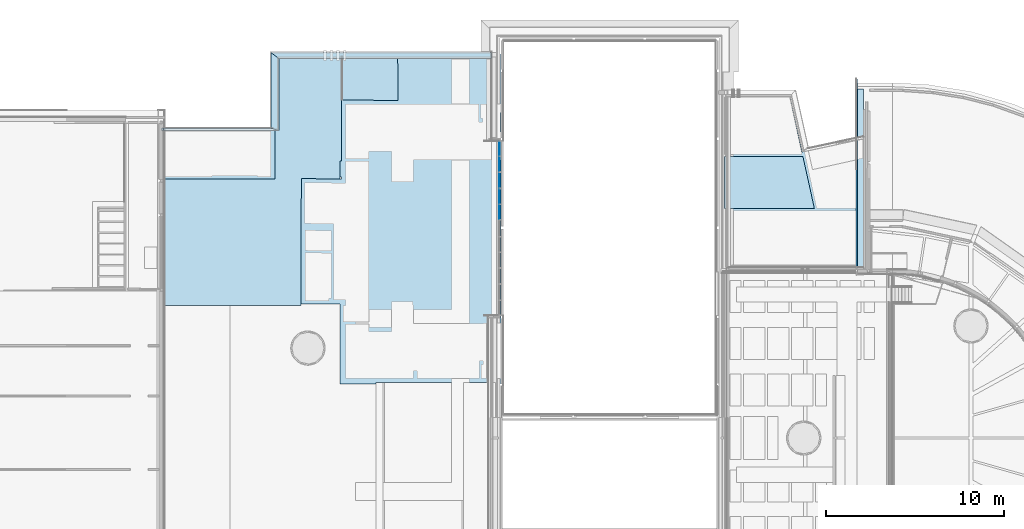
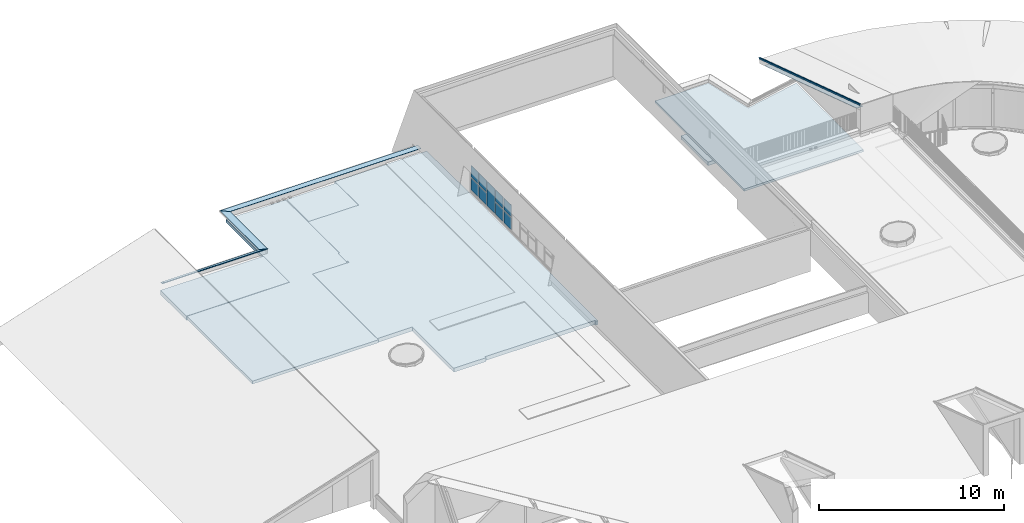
# One storey, part 15 of 66: 14 slabs, 9 plates, 5 elements without a shape of their own.
"""IFC2X3 building model written with IfcOpenShell, lengths in millimetres."""

from ifc_helpers import new_model, entity, si_unit, converted_unit, derived_unit, direction, frame, frame_2d, origin, origin_2d_with_axis, place, context, subcontext, project, spatial, polyline, circle_curve, parameter, trimmed, segment, composite_curve, rectangle, outline, extrude, source, transform, mapped, material, material_list, layer, layer_set, layer_usage, type_object, type_shapes, element, aggregate, save


model = new_model("IFC2X3")

# Units and contexts
model_context = context("Model", 3, precision=0.01, world=origin(), true_north=direction((6.12303176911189e-17, 1.0)))
body_context = subcontext(model_context, "Body", "Model", "MODEL_VIEW")
ifc_project = project(units=[si_unit("LENGTHUNIT", "METRE", prefix="MILLI"), si_unit("AREAUNIT", "SQUARE_METRE"), si_unit("VOLUMEUNIT", "CUBIC_METRE"), converted_unit("PLANEANGLEUNIT", "DEGREE", entity("IfcRatioMeasure", 0.0174532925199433), si_unit("PLANEANGLEUNIT", "RADIAN"), dimensions=[0, 0, 0, 0, 0, 0, 0]), si_unit("MASSUNIT", "GRAM", prefix="KILO"), derived_unit("MASSDENSITYUNIT", [(si_unit("MASSUNIT", "GRAM", prefix="KILO"), 1), (si_unit("LENGTHUNIT", "METRE"), -3)]), derived_unit("MOMENTOFINERTIAUNIT", [(si_unit("LENGTHUNIT", "METRE"), 4)]), si_unit("TIMEUNIT", "SECOND"), si_unit("FREQUENCYUNIT", "HERTZ"), si_unit("THERMODYNAMICTEMPERATUREUNIT", "DEGREE_CELSIUS"), derived_unit("THERMALTRANSMITTANCEUNIT", [(si_unit("MASSUNIT", "GRAM", prefix="KILO"), 1), (si_unit("THERMODYNAMICTEMPERATUREUNIT", "KELVIN"), -1), (si_unit("TIMEUNIT", "SECOND"), -3)]), derived_unit("VOLUMETRICFLOWRATEUNIT", [(si_unit("LENGTHUNIT", "METRE"), 3), (si_unit("TIMEUNIT", "SECOND"), -1)]), si_unit("ELECTRICCURRENTUNIT", "AMPERE"), si_unit("ELECTRICVOLTAGEUNIT", "VOLT"), si_unit("POWERUNIT", "WATT"), si_unit("FORCEUNIT", "NEWTON", prefix="KILO"), si_unit("ILLUMINANCEUNIT", "LUX"), si_unit("LUMINOUSFLUXUNIT", "LUMEN"), si_unit("LUMINOUSINTENSITYUNIT", "CANDELA"), derived_unit("USERDEFINED", [(si_unit("MASSUNIT", "GRAM", prefix="KILO"), -1), (si_unit("LENGTHUNIT", "METRE"), -2), (si_unit("TIMEUNIT", "SECOND"), 3), (si_unit("LUMINOUSFLUXUNIT", "LUMEN"), 1)]), derived_unit("LINEARVELOCITYUNIT", [(si_unit("LENGTHUNIT", "METRE"), 1), (si_unit("TIMEUNIT", "SECOND"), -1)]), si_unit("PRESSUREUNIT", "PASCAL"), derived_unit("USERDEFINED", [(si_unit("LENGTHUNIT", "METRE"), -2), (si_unit("MASSUNIT", "GRAM", prefix="KILO"), 1), (si_unit("TIMEUNIT", "SECOND"), -2)]), derived_unit("LINEARFORCEUNIT", [(si_unit("MASSUNIT", "GRAM", prefix="KILO"), 1), (si_unit("LENGTHUNIT", "METRE"), 1), (si_unit("TIMEUNIT", "SECOND"), -2), (si_unit("LENGTHUNIT", "METRE"), -1)]), derived_unit("PLANARFORCEUNIT", [(si_unit("MASSUNIT", "GRAM", prefix="KILO"), 1), (si_unit("LENGTHUNIT", "METRE"), 1), (si_unit("TIMEUNIT", "SECOND"), -2), (si_unit("LENGTHUNIT", "METRE"), -2)])], contexts=[model_context])

# Site, building, storey
site_placement = place(None, origin())
site = spatial("IfcSite", under=ifc_project, at=site_placement, Name="Default", CompositionType="ELEMENT")
building_placement = place(site_placement, origin())
building = spatial("IfcBuilding", under=site, at=building_placement, Name="-", CompositionType="ELEMENT")
storey_placement = place(building_placement, frame((0.0, 0.0, 3070.0)))
storey = spatial("IfcBuildingStorey", under=building, at=storey_placement, Name="01 eerste verdieping", CompositionType="ELEMENT", Elevation=3070.00000000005)

# Slab
ifc_material_1 = material(Name="NLRS_i4_hout_multiplex")
ifc_layer_1 = layer(ifc_material_1, 18.0)
ifc_material_2 = material(Name="NLRS_i2_hout naaldhout vuren_gen")
ifc_layer_2 = layer(ifc_material_2, 245.0)
ifc_layer_set_1 = layer_set([ifc_layer_1, ifc_layer_2], Name="Floor:NLRS_23_FL_Houten balk laag 245mm met multiplex")
ifc_layer_usage_1 = layer_usage(ifc_layer_set_1, "AXIS3", "POSITIVE", 0.0)
slab_type_1 = type_object("IfcSlabType", Name="Floor:NLRS_23_FL_Houten balk laag 245mm met multiplex", PredefinedType="FLOOR", material=ifc_layer_set_1)
slab_1_placement = place(storey_placement, origin())
element("IfcSlab", 1, at=slab_1_placement, inside=storey, type_object=slab_type_1, material=ifc_layer_usage_1, Name="Floor:NLRS_23_FL_Houten balk laag 245mm met multiplex", ObjectType="Floor:NLRS_23_FL_Houten balk laag 245mm met multiplex", PredefinedType="FLOOR", context=body_context, shape_type="SweptSolid", body=[
    extrude(outline(polyline([(-4789.51083032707, -9362.7837585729), (-4681.11288523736, -9362.7837585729), (-4681.11288523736, -9262.78375857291), (2200.58194909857, -9262.78375857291), (2200.58194909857, -9362.7837585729), (4215.22693512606, -9362.7837585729), (4215.22693512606, -4864.55880134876), (6396.48063973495, -4864.55880134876), (6389.54074608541, 2168.4645395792), (4129.58194909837, 2136.67812955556), (4129.58194909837, 2263.06488736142), (4211.58194909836, 2263.06488736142), (4211.58194909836, 3163.06488736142), (4129.58194909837, 3163.06488736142), (4129.58194909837, 6566.59666733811), (965.807837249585, 6553.33462729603), (982.581584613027, 9140.19499735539), (-4774.41805090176, 9140.19499735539), (-4774.41805090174, 8205.29840511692), (-4779.41805090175, 8205.29840511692), (-4821.56100688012, 2545.57278543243), (-4805.56716691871, 2545.57278543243), (-4805.5671669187, -4347.98246963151), (-4815.41612559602, -4347.98246963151), (-4789.51083032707, -9362.7837585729)])), frame((23889.5819491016, 31998.5591587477, 0.0), z_axis=(0.0, 0.0, -1.0), x_axis=(-1.0, 0.0, 0.0)), (0.0, 0.0, 1.0), 263.0),
])

# Curtain wall, plates
curtain_wall_type = type_object("IfcCurtainWallType", Name="Curtain Wall:NLRS_31_WIN_UN_houten kozijn vrij indeelbaar_gen_aly", PredefinedType="NOTDEFINED")
curtain_wall_placement = place(storey_placement, frame((0.0, 0.0, -3070.0)))
curtain_wall = element("IfcCurtainWall", 2, at=curtain_wall_placement, inside=storey, type_object=curtain_wall_type, Name="Curtain Wall:NLRS_31_WIN_UN_houten kozijn vrij indeelbaar_gen_aly", ObjectType="Curtain Wall:NLRS_31_WIN_UN_houten kozijn vrij indeelbaar_gen_aly")
ifc_material_3 = material(Name="NLRS_o5_glas")
plate_type_1 = type_object("IfcPlateType", Name="System Panel:31_Geïsoleerd glas 25mm", PredefinedType="CURTAIN_PANEL", material=ifc_material_3)
shared_shape_1 = source(origin(), body_context, "Body", "SweptSolid", [
    extrude(rectangle(XDim=25.0, YDim=812.999999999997, at=origin_2d_with_axis()), frame((0.0, 0.0, 0.0), z_axis=(0.0, 0.0, 1.0), x_axis=(0.0, 1.0, 0.0)), (0.0, 0.0, 1.0), 789.472353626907),
])
type_shapes(plate_type_1, [shared_shape_1])
plate_1_placement = place(curtain_wall_placement, frame((28618.0, 32289.055345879, 3482.35900394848), z_axis=(0.0, 0.0, 1.0), x_axis=(0.0, 1.0, 0.0)))
plate_1 = element("IfcPlate", 3, at=plate_1_placement, type_object=plate_type_1, material=ifc_material_3, Name="System Panel:31_Geïsoleerd glas 25mm", ObjectType="System Panel:31_Geïsoleerd glas 25mm", context=body_context, shape_type="MappedRepresentation", body=[
    mapped(shared_shape_1, transform((0.0, 0.0, 0.0), scale=1.0)),
])
plate_2_placement = place(curtain_wall_placement, frame((28618.0, 33169.055345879, 3482.35900394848), z_axis=(0.0, 0.0, 1.0), x_axis=(0.0, 1.0, 0.0)))
plate_2 = element("IfcPlate", 4, at=plate_2_placement, type_object=plate_type_1, material=ifc_material_3, Name="System Panel:31_Geïsoleerd glas 25mm", ObjectType="System Panel:31_Geïsoleerd glas 25mm", context=body_context, shape_type="MappedRepresentation", body=[
    mapped(shared_shape_1, transform((0.0, 0.0, 0.0), scale=1.0)),
])
plate_3_placement = place(curtain_wall_placement, frame((28618.0, 34969.055345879, 3482.35900394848), z_axis=(0.0, 0.0, 1.0), x_axis=(0.0, 1.0, 0.0)))
plate_3 = element("IfcPlate", 5, at=plate_3_placement, type_object=plate_type_1, material=ifc_material_3, Name="System Panel:31_Geïsoleerd glas 25mm", ObjectType="System Panel:31_Geïsoleerd glas 25mm", context=body_context, shape_type="MappedRepresentation", body=[
    mapped(shared_shape_1, transform((0.0, 0.0, 0.0), scale=1.0)),
])
plate_type_2 = type_object("IfcPlateType", Name="System Panel:31_Geïsoleerd glas 25mm", PredefinedType="CURTAIN_PANEL", material=ifc_material_3)
shared_shape_2 = source(origin(), body_context, "Body", "SweptSolid", [
    extrude(rectangle(XDim=1625.94470725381, YDim=852.999999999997, at=frame_2d((-3.33333333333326, 0.0), x_axis=(1.0, 0.0))), frame((0.0, -12.500000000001, 816.305686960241), z_axis=(0.0, 1.0, 0.0), x_axis=(0.0, 0.0, 1.0)), (0.0, 0.0, 1.0), 25.0),
])
type_shapes(plate_type_2, [shared_shape_2])
plate_4_placement = place(curtain_wall_placement, frame((28618.0, 34069.055345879, 3482.35900394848), z_axis=(0.0, 0.0, 1.0), x_axis=(0.0, 1.0, 0.0)))
plate_4 = element("IfcPlate", 6, at=plate_4_placement, type_object=plate_type_2, material=ifc_material_3, Name="System Panel:31_Geïsoleerd glas 25mm", ObjectType="System Panel:31_Geïsoleerd glas 25mm", context=body_context, shape_type="MappedRepresentation", body=[
    mapped(shared_shape_2, transform((0.0, 0.0, 0.0), scale=1.0)),
])
plate_type_3 = type_object("IfcPlateType", Name="System Panel:31_Geïsoleerd glas 25mm", PredefinedType="CURTAIN_PANEL", material=ifc_material_3)
shared_shape_3 = source(origin(), body_context, "Body", "SweptSolid", [
    extrude(rectangle(XDim=25.0, YDim=779.499999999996, at=origin_2d_with_axis()), frame((0.0, 0.0, 0.0), z_axis=(0.0, 0.0, 1.0), x_axis=(0.0, 1.0, 0.0)), (0.0, 0.0, 1.0), 789.472353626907),
])
type_shapes(plate_type_3, [shared_shape_3])
plate_5_placement = place(curtain_wall_placement, frame((28618.0, 35832.305345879, 3482.35900394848), z_axis=(0.0, 0.0, 1.0), x_axis=(0.0, 1.0, 0.0)))
plate_5 = element("IfcPlate", 7, at=plate_5_placement, type_object=plate_type_3, material=ifc_material_3, Name="System Panel:31_Geïsoleerd glas 25mm", ObjectType="System Panel:31_Geïsoleerd glas 25mm", context=body_context, shape_type="MappedRepresentation", body=[
    mapped(shared_shape_3, transform((0.0, 0.0, 0.0), scale=1.0)),
])
plate_type_4 = type_object("IfcPlateType", Name="System Panel:31_Geïsoleerd glas 25mm", PredefinedType="CURTAIN_PANEL", material=ifc_material_3)
shared_shape_4 = source(origin(), body_context, "Body", "SweptSolid", [
    extrude(rectangle(XDim=25.0, YDim=812.999999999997, at=origin_2d_with_axis()), frame((0.0, 0.0, 0.0), z_axis=(0.0, 0.0, 1.0), x_axis=(0.0, 1.0, 0.0)), (0.0, 0.0, 1.0), 769.472353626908),
])
type_shapes(plate_type_4, [shared_shape_4])
plate_6_placement = place(curtain_wall_placement, frame((28618.0, 32289.055345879, 4338.83135757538), z_axis=(0.0, 0.0, 1.0), x_axis=(0.0, 1.0, 0.0)))
plate_6 = element("IfcPlate", 8, at=plate_6_placement, type_object=plate_type_4, material=ifc_material_3, Name="System Panel:31_Geïsoleerd glas 25mm", ObjectType="System Panel:31_Geïsoleerd glas 25mm", context=body_context, shape_type="MappedRepresentation", body=[
    mapped(shared_shape_4, transform((0.0, 0.0, 0.0), scale=1.0)),
])
plate_7_placement = place(curtain_wall_placement, frame((28618.0, 33169.055345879, 4338.83135757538), z_axis=(0.0, 0.0, 1.0), x_axis=(0.0, 1.0, 0.0)))
plate_7 = element("IfcPlate", 9, at=plate_7_placement, type_object=plate_type_4, material=ifc_material_3, Name="System Panel:31_Geïsoleerd glas 25mm", ObjectType="System Panel:31_Geïsoleerd glas 25mm", context=body_context, shape_type="MappedRepresentation", body=[
    mapped(shared_shape_4, transform((0.0, 0.0, 0.0), scale=1.0)),
])
plate_8_placement = place(curtain_wall_placement, frame((28618.0, 34969.055345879, 4338.83135757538), z_axis=(0.0, 0.0, 1.0), x_axis=(0.0, 1.0, 0.0)))
plate_8 = element("IfcPlate", 10, at=plate_8_placement, type_object=plate_type_4, material=ifc_material_3, Name="System Panel:31_Geïsoleerd glas 25mm", ObjectType="System Panel:31_Geïsoleerd glas 25mm", context=body_context, shape_type="MappedRepresentation", body=[
    mapped(shared_shape_4, transform((0.0, 0.0, 0.0), scale=1.0)),
])
plate_type_5 = type_object("IfcPlateType", Name="System Panel:31_Geïsoleerd glas 25mm", PredefinedType="CURTAIN_PANEL", material=ifc_material_3)
shared_shape_5 = source(origin(), body_context, "Body", "SweptSolid", [
    extrude(rectangle(XDim=25.0, YDim=779.499999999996, at=origin_2d_with_axis()), frame((0.0, 0.0, 0.0), z_axis=(0.0, 0.0, 1.0), x_axis=(0.0, 1.0, 0.0)), (0.0, 0.0, 1.0), 769.472353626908),
])
type_shapes(plate_type_5, [shared_shape_5])
plate_9_placement = place(curtain_wall_placement, frame((28618.0, 35832.305345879, 4338.83135757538), z_axis=(0.0, 0.0, 1.0), x_axis=(0.0, 1.0, 0.0)))
plate_9 = element("IfcPlate", 11, at=plate_9_placement, type_object=plate_type_5, material=ifc_material_3, Name="System Panel:31_Geïsoleerd glas 25mm", ObjectType="System Panel:31_Geïsoleerd glas 25mm", context=body_context, shape_type="MappedRepresentation", body=[
    mapped(shared_shape_5, transform((0.0, 0.0, 0.0), scale=1.0)),
])
aggregate(curtain_wall, [plate_1, plate_2, plate_4, plate_3, plate_5, plate_6, plate_7, plate_8, plate_9])

# Slab
ifc_material_4 = material(Name="NLRS_n7_isolatie PIR_gen")
ifc_layer_3 = layer(ifc_material_4, 140.0)
ifc_layer_set_2 = layer_set([ifc_layer_3], Name="Floor:NLRS_23_FL_Pir dakisolatie 140mm")
ifc_layer_usage_2 = layer_usage(ifc_layer_set_2, "AXIS3", "POSITIVE", 0.0)
slab_type_2 = type_object("IfcSlabType", Name="Floor:NLRS_23_FL_Pir dakisolatie 140mm", PredefinedType="FLOOR", material=ifc_layer_set_2)
slab_2_placement = place(storey_placement, origin())
element("IfcSlab", 12, at=slab_2_placement, inside=storey, type_object=slab_type_2, material=ifc_layer_usage_2, Name="Floor:NLRS_23_FL_Pir dakisolatie 140mm", ObjectType="Floor:NLRS_23_FL_Pir dakisolatie 140mm", PredefinedType="FLOOR", context=body_context, shape_type="SweptSolid", body=[
    extrude(outline(polyline([(-5511.51907712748, -3715.35369843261), (4122.84409357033, -3715.35369843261), (4122.84409357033, -372.509564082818), (1022.39487908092, 311.096052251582), (1754.95508803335, 3746.06045434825), (-5511.51907712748, 3746.06045434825), (-5511.51907712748, -3715.35369843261)])), frame((45278.5599357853, 34636.2258595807, 240.0), z_axis=(0.0, 0.0, -1.0), x_axis=(0.0, 1.0, 0.0)), (0.0, 0.0, 1.0), 140.0),
])

# Covering, slabs
covering_1_placement = place(storey_placement, frame((9651.53026943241, 36855.9865767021, 469.100000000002)))
covering_1 = element("IfcCovering", 13, at=covering_1_placement, inside=storey, Name="Floor:NLRS_44_FL_Multiplex 15mm", ObjectType="Floor:NLRS_44_FL_Multiplex 15mm", PredefinedType="NOTDEFINED")
slab_type_3 = type_object("IfcSlabType", Name="Floor:NLRS_44_FL_Multiplex 15mm", PredefinedType="ROOF")
slab_3_placement = place(covering_1_placement, origin())
slab_3 = element("IfcSlab", 14, at=slab_3_placement, type_object=slab_type_3, material=ifc_material_1, Name="Floor:NLRS_44_FL_Multiplex 15mm", ObjectType="Floor:NLRS_44_FL_Multiplex 15mm", PredefinedType="NOTDEFINED", context=body_context, shape_type="SweptSolid", body=[
    extrude(outline(polyline([(6184.50000000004, -171.572870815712), (6184.50000000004, 171.572870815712), (-6184.50000000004, 171.572870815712), (-5741.50000000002, -171.572870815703), (6184.50000000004, -171.572870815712)])), frame((12327.9697305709, 4211.26757940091, 20.0), z_axis=(0.0, -0.0291421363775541, 0.999575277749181), x_axis=(1.0, 0.0, 0.0)), (0.0, -0.0291421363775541, -0.999575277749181), 14.9999999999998),
])
slab_type_4 = type_object("IfcSlabType", Name="Floor:NLRS_44_FL_Multiplex 15mm", PredefinedType="ROOF")
slab_4_placement = place(covering_1_placement, origin())
slab_4 = element("IfcSlab", 15, at=slab_4_placement, type_object=slab_type_4, material=ifc_material_1, Name="Floor:NLRS_44_FL_Multiplex 15mm", ObjectType="Floor:NLRS_44_FL_Multiplex 15mm", PredefinedType="NOTDEFINED", context=body_context, shape_type="SweptSolid", body=[
    extrude(outline(polyline([(-221.556426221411, 2191.38378970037), (-221.556426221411, -2055.38378970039), (221.556426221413, -2191.38378970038), (221.556426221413, 1848.3837897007), (-221.556426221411, 2191.38378970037)])), frame((6364.96973057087, 2191.38378970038, 20.0), z_axis=(0.022567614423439, 0.0, 0.999745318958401), x_axis=(0.999745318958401, 0.0, -0.022567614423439)), (0.022567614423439, 0.0, -0.999745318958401), 14.9999999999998),
])
slab_type_5 = type_object("IfcSlabType", Name="Floor:NLRS_44_FL_Multiplex 15mm", PredefinedType="ROOF")
slab_5_placement = place(covering_1_placement, origin())
slab_5 = element("IfcSlab", 16, at=slab_5_placement, type_object=slab_type_5, material=ifc_material_1, Name="Floor:NLRS_44_FL_Multiplex 15mm", ObjectType="Floor:NLRS_44_FL_Multiplex 15mm", PredefinedType="NOTDEFINED", context=body_context, shape_type="SweptSolid", body=[
    extrude(outline(polyline([(2850.23486528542, 68.1835757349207), (-3293.23486528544, 68.1835757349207), (-3293.23486528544, -68.1835757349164), (3293.23486528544, -68.1835757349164), (2850.23486528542, 68.1835757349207)])), frame((3293.23486528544, 68.0, 20.0), z_axis=(0.0, -0.0733314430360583, 0.997307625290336), x_axis=(1.0, 0.0, 0.0)), (0.0, -0.0733314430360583, -0.997307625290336), 14.9999999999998),
])
aggregate(covering_1, [slab_3, slab_4, slab_5])

# Slabs
slab_6_placement = place(storey_placement, frame((9779.74999999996, 36855.9865767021, 484.100000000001)))
slab_6 = element("IfcSlab", 17, at=slab_6_placement, inside=storey, Name="Floor:NLRS_23_FL_Bitumen dakbedekking", ObjectType="Floor:NLRS_23_FL_Bitumen dakbedekking", PredefinedType="NOTDEFINED")
ifc_material_5 = material(Name="NLRS_n2_bitumen_dak bedekking")
slab_type_6 = type_object("IfcSlabType", Name="Floor:NLRS_23_FL_Bitumen dakbedekking", PredefinedType="ROOF")
slab_7_placement = place(slab_6_placement, origin())
slab_7 = element("IfcSlab", 18, at=slab_7_placement, type_object=slab_type_6, material=ifc_material_5, Name="Floor:NLRS_23_FL_Bitumen dakbedekking", ObjectType="Floor:NLRS_23_FL_Bitumen dakbedekking", PredefinedType="NOTDEFINED", context=body_context, shape_type="SweptSolid", body=[
    extrude(outline(polyline([(6184.50000000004, -171.572870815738), (6184.50000000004, 171.572870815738), (-6184.50000000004, 171.572870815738), (-5741.50000000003, -171.572870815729), (6184.50000000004, -171.572870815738)])), frame((12199.7500000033, 4211.26757940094, 11.0), z_axis=(0.0, -0.0291421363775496, 0.999575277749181), x_axis=(1.0, 0.0, 0.0)), (0.0, -0.0291421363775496, -0.999575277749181), 6.00000000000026),
])
slab_type_7 = type_object("IfcSlabType", Name="Floor:NLRS_23_FL_Bitumen dakbedekking", PredefinedType="ROOF")
slab_8_placement = place(slab_6_placement, origin())
slab_8 = element("IfcSlab", 19, at=slab_8_placement, type_object=slab_type_7, material=ifc_material_5, Name="Floor:NLRS_23_FL_Bitumen dakbedekking", ObjectType="Floor:NLRS_23_FL_Bitumen dakbedekking", PredefinedType="NOTDEFINED", context=body_context, shape_type="SweptSolid", body=[
    extrude(outline(polyline([(-221.556426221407, 2191.3837897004), (-221.556426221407, -2055.3837897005), (221.556426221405, -2191.3837897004), (221.556426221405, 1848.38378970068), (-221.556426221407, 2191.3837897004)])), frame((6236.75000000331, 2191.3837897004, 11.0), z_axis=(0.0225676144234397, 0.0, 0.999745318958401), x_axis=(0.999745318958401, 0.0, -0.0225676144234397)), (0.0225676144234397, 0.0, -0.999745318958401), 6.00000000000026),
])
slab_type_8 = type_object("IfcSlabType", Name="Floor:NLRS_23_FL_Bitumen dakbedekking", PredefinedType="ROOF")
slab_9_placement = place(slab_6_placement, origin())
slab_9 = element("IfcSlab", 20, at=slab_9_placement, type_object=slab_type_8, material=ifc_material_5, Name="Floor:NLRS_23_FL_Bitumen dakbedekking", ObjectType="Floor:NLRS_23_FL_Bitumen dakbedekking", PredefinedType="NOTDEFINED", context=body_context, shape_type="SweptSolid", body=[
    extrude(outline(polyline([(2786.12500000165, 68.1835757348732), (-3229.12500000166, 68.1835757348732), (-3229.12500000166, -68.1835757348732), (3229.12500000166, -68.1835757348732), (2786.12500000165, 68.1835757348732)])), frame((3229.12500000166, 68.0, 11.0), z_axis=(0.0, -0.0733314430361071, 0.997307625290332), x_axis=(1.0, 0.0, 0.0)), (0.0, -0.0733314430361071, -0.997307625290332), 6.00000000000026),
])
aggregate(slab_6, [slab_7, slab_8, slab_9])

ifc_layer_4 = layer(ifc_material_2, 221.0)
ifc_layer_set_3 = layer_set([ifc_layer_4], Name="Floor:NLRS_23_FL_Houten balk laag 221mm")
ifc_layer_usage_3 = layer_usage(ifc_layer_set_3, "AXIS3", "POSITIVE", 0.0)
slab_type_9 = type_object("IfcSlabType", Name="Floor:NLRS_23_FL_Houten balk laag 221mm", PredefinedType="FLOOR", material=ifc_layer_set_3)
slab_10_placement = place(storey_placement, origin())
element("IfcSlab", 21, at=slab_10_placement, inside=storey, type_object=slab_type_9, material=ifc_layer_usage_3, Name="Floor:NLRS_23_FL_Houten balk laag 221mm", ObjectType="Floor:NLRS_23_FL_Houten balk laag 221mm", PredefinedType="FLOOR", context=body_context, shape_type="SweptSolid", body=[
    extrude(outline(polyline([(-1451.66406065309, -2353.1020791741), (1451.66406065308, -2353.1020791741), (1451.66406065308, 2030.79559409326), (-1451.66406065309, 2675.40856425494), (-1451.66406065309, -2353.1020791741)])), frame((43599.1688896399, 33945.405892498, 82.0), z_axis=(0.0, 0.0, -1.0), x_axis=(0.0, 1.0, 0.0)), (0.0, 0.0, 1.0), 221.0),
])
ifc_layer_5 = layer(ifc_material_2, 196.0)
ifc_layer_set_4 = layer_set([ifc_layer_5], Name="Floor:NLRS_23_FL_Houten balk laag 196mm")
ifc_layer_usage_4 = layer_usage(ifc_layer_set_4, "AXIS3", "POSITIVE", 0.0)
slab_type_10 = type_object("IfcSlabType", Name="Floor:NLRS_23_FL_Houten balk laag 196mm", PredefinedType="FLOOR", material=ifc_layer_set_4)
slab_11_placement = place(storey_placement, origin())
element("IfcSlab", 22, at=slab_11_placement, inside=storey, type_object=slab_type_10, material=ifc_layer_usage_4, Name="Floor:NLRS_23_FL_Houten balk laag 196mm", ObjectType="Floor:NLRS_23_FL_Houten balk laag 196mm", PredefinedType="FLOOR", context=body_context, shape_type="SweptSolid", body=[
    extrude(outline(polyline([(-7234.16408044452, -7414.08696127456), (-155.243871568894, -7414.08696127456), (-155.243871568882, -1004.0869612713), (6701.89691310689, -1004.08696127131), (6701.8969131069, 2715.91303872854), (869.766803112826, 2715.91303872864), (869.766803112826, 2633.91303872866), (-30.2331968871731, 2633.91303872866), (-30.2331968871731, 2615.91303872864), (-155.213450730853, 2615.91303872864), (-124.833544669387, 455.954241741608), (-7258.16221968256, 448.915370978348), (-7234.16408044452, -7414.08696127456)])), frame((17044.0869612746, 34291.8572429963, -18.0), z_axis=(0.0, 0.0, -1.0), x_axis=(0.0, 1.0, 0.0)), (0.0, 0.0, 1.0), 196.0),
])
ifc_layer_usage_5 = layer_usage(ifc_layer_set_4, "AXIS3", "POSITIVE", 0.0)
slab_type_11 = type_object("IfcSlabType", Name="Floor:NLRS_23_FL_Houten balk laag 196mm", PredefinedType="FLOOR", material=ifc_layer_set_4)
slab_12_placement = place(storey_placement, origin())
element("IfcSlab", 23, at=slab_12_placement, inside=storey, type_object=slab_type_11, material=ifc_layer_usage_5, Name="Floor:NLRS_23_FL_Houten balk laag 196mm", ObjectType="Floor:NLRS_23_FL_Houten balk laag 196mm", PredefinedType="FLOOR", context=body_context, shape_type="SweptSolid", body=[
    extrude(outline(polyline([(-1211.14084905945, -1552.92867171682), (1217.66707303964, -1552.92867171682), (1217.66707303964, 1545.01190330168), (-1224.19329701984, 1560.84544013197), (-1211.14084905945, -1552.92867171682)])), frame((21362.92867172, 39776.0870830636, -18.0), z_axis=(0.0, 0.0, -1.0), x_axis=(0.0, 1.0, 0.0)), (0.0, 0.0, 1.0), 196.0),
])
ifc_layer_6 = layer(ifc_material_1, 18.0)
ifc_layer_7 = layer(ifc_material_2, 271.0)
ifc_layer_set_5 = layer_set([ifc_layer_6, ifc_layer_7], Name="Floor:NLRS_23_FL_Houten balk laag 271mm met multiplex")
ifc_layer_usage_6 = layer_usage(ifc_layer_set_5, "AXIS3", "POSITIVE", 0.0)
slab_type_12 = type_object("IfcSlabType", Name="Floor:NLRS_23_FL_Houten balk laag 271mm met multiplex", PredefinedType="FLOOR", material=ifc_layer_set_5)
slab_13_placement = place(storey_placement, origin())
element("IfcSlab", 24, at=slab_13_placement, inside=storey, type_object=slab_type_12, material=ifc_layer_usage_6, Name="Floor:NLRS_23_FL_Houten balk laag 271mm met multiplex", ObjectType="Floor:NLRS_23_FL_Houten balk laag 271mm met multiplex", PredefinedType="FLOOR", context=body_context, shape_type="SweptSolid", body=[
    extrude(rectangle(XDim=2819.37320527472, YDim=6430.00000000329, at=frame_2d((0.0, 4.54747350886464e-13), x_axis=(1.0, 0.0))), frame((12825.0, 35546.2999740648, 0.0), z_axis=(0.0, 0.0, -1.0), x_axis=(0.0, 1.0, 0.0)), (0.0, 0.0, 1.0), 289.0),
])

# Roof, slab
ifc_material_6 = material(Name="AL_Aluminium")
ifc_material_7 = material(Name="AL_31_Naaldhout (vuren)")
ifc_material_8 = material(Name="h7_zink zwart")
ifc_material_list_1 = material_list([ifc_material_6, ifc_material_7, ifc_material_8])
roof_placement = place(storey_placement, origin())
roof = element("IfcRoof", 25, at=roof_placement, inside=storey, material=ifc_material_list_1, Name="Dakrand zijkant dak3:Dakrand zijkant dak", ObjectType="Dakrand zijkant dak3:Dakrand zijkant dak", ShapeType="NOTDEFINED")
ifc_material_list_2 = material_list([ifc_material_6, ifc_material_7, ifc_material_8])
slab_type_13 = type_object("IfcSlabType", Name="Dakrand zijkant dak3:Dakrand zijkant dak", PredefinedType="ROOF")
slab_14_placement = place(storey_placement, origin())
slab_14 = element("IfcSlab", 26, at=slab_14_placement, type_object=slab_type_13, material=ifc_material_list_2, Name="Dakrand zijkant dak3:Dakrand zijkant dak:1", ObjectType="Dakrand zijkant dak3:Dakrand zijkant dak", PredefinedType="ROOF", context=body_context, shape_type="SweptSolid", body=[
    extrude(outline(composite_curve([segment(trimmed(circle_curve(frame_2d((-36.5513412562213, -15.7650850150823), x_axis=(-1.0, 0.0)), 1.99999999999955), [parameter(5.08888749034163e-13)], [parameter(89.9999999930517)], True, "PARAMETER"), False, "CONTINUOUS"), segment(polyline([(-38.5513412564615, -15.7650850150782), (-38.5513412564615, -0.283128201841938)]), True, "CONTINUOUS"), segment(polyline([(-38.5513412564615, -0.283128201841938), (-39.5513412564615, -0.283128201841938)]), True, "CONTINUOUS"), segment(polyline([(-39.5513412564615, -0.283128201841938), (-39.5513412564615, -15.7650850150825)]), True, "CONTINUOUS"), segment(trimmed(circle_curve(frame_2d((-36.5513412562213, -15.7650850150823), x_axis=(-1.0, 0.0)), 2.99999999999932), [parameter(5.08888749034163e-13)], [parameter(89.999999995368)], True, "PARAMETER"), True, "CONTINUOUS"), segment(polyline([(-36.5513412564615, -18.7650850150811), (36.5513412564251, -18.7650850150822)]), True, "CONTINUOUS"), segment(trimmed(circle_curve(frame_2d((36.5513412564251, -15.7650850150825), x_axis=(1.0, 0.0)), 2.99999999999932), [parameter(270.0)], [parameter(359.999999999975)], True, "PARAMETER"), True, "CONTINUOUS"), segment(polyline([(39.5513412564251, -15.7650850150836), (39.5513412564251, 68.3434682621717)]), True, "CONTINUOUS"), segment(polyline([(39.5513412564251, 68.3434682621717), (38.5513412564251, 68.3434682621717)]), True, "CONTINUOUS"), segment(polyline([(38.5513412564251, 68.3434682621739), (38.5513412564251, -15.7650850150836)]), True, "CONTINUOUS"), segment(trimmed(circle_curve(frame_2d((36.5513412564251, -15.7650850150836), x_axis=(1.0, 0.0)), 1.99999999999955), [parameter(270.0)], [parameter(359.999999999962)], True, "PARAMETER"), False, "CONTINUOUS"), segment(polyline([(36.5513412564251, -17.7650850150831), (-36.5513412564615, -17.7650850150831)]), True, "CONTINUOUS")], self_intersect=False)), frame((48646.3776280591, 28794.1010096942, 3577.81848446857), z_axis=(0.0, -0.951056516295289, 0.30901699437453), x_axis=(-1.0, 0.0, 0.0)), (0.0, 0.0, -1.0), 11200.0),
    extrude(rectangle(XDim=38.0000000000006, YDim=11220.0, at=frame_2d((4.09272615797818e-12, 6.76791955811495e-13), x_axis=(0.0, 1.0))), frame((48616.797408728, 34128.8374393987, 1842.10761556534), z_axis=(1.0, 0.0, 0.0), x_axis=(0.0, -0.951056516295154, 0.309016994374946)), (0.0, 0.0, 1.0), 58.0000000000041),
    extrude(outline(composite_curve([segment(polyline([(-68.9315637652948, 31.6441901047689), (-53.9315637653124, 31.6441901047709)]), True, "CONTINUOUS"), segment(polyline([(-53.9315637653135, 31.6441901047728), (-53.9315637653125, 32.644190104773)]), True, "CONTINUOUS"), segment(polyline([(-53.9315637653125, 32.644190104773), (-70.7356115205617, 32.6441901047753)]), True, "CONTINUOUS"), segment(polyline([(-70.7356115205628, 32.6441901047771), (-22.6773799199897, -44.2650573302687)]), True, "CONTINUOUS"), segment(trimmed(circle_curve(frame_2d((-20.1332356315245, -42.6752995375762), x_axis=(-0.848048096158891, -0.529919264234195)), 2.99999999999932), [parameter(360.0)], [parameter(89.9999999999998)], True, "PARAMETER"), True, "CONTINUOUS"), segment(polyline([(-18.5434778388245, -45.2194438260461), (46.8433052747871, -4.3612470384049)]), True, "CONTINUOUS"), segment(trimmed(circle_curve(frame_2d((45.2535474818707, -1.81710275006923), x_axis=(0.848048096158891, 0.529919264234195)), 2.99999999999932), [parameter(270.000000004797)], [parameter(3.88282115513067e-11)], True, "PARAMETER"), True, "CONTINUOUS"), segment(polyline([(47.7976917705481, -0.227344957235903), (35.9199682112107, 18.7809861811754)]), True, "CONTINUOUS"), segment(polyline([(35.9199682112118, 18.7809861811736), (34.2521330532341, 11.556798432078)]), True, "CONTINUOUS"), segment(polyline([(34.2521330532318, 11.5567984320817), (35.2265031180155, 11.331847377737)]), True, "CONTINUOUS"), segment(polyline([(35.2265031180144, 11.3318473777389), (36.3512583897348, 16.2036977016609)]), True, "CONTINUOUS"), segment(polyline([(36.3512583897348, 16.2036977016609), (46.9496436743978, -0.75726422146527)]), True, "CONTINUOUS"), segment(trimmed(circle_curve(frame_2d((45.2535474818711, -1.81710275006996), x_axis=(0.848048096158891, 0.529919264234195)), 1.99999999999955), [parameter(270.000000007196)], [parameter(5.85222061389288e-11)], True, "PARAMETER"), False, "CONTINUOUS"), segment(polyline([(46.3133860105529, -3.5131989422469), (-19.0733971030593, -44.3713957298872)]), True, "CONTINUOUS"), segment(trimmed(circle_curve(frame_2d((-20.1332356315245, -42.6752995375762), x_axis=(-0.848048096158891, -0.529919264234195)), 1.99999999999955), [parameter(360.0)], [parameter(89.9999999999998)], True, "PARAMETER"), False, "CONTINUOUS"), segment(polyline([(-21.8293318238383, -43.7351380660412), (-68.9315637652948, 31.6441901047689)]), True, "CONTINUOUS")], self_intersect=False)), frame((48647.5147022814, 28791.7040785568, 3570.44148896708), z_axis=(0.0, 0.951056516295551, -0.309016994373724), x_axis=(0.848048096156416, 0.163754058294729, 0.503983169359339)), (0.0, 0.0, 1.0), 11500.0),
])
aggregate(roof, [slab_14])

# Covering, slab
covering_2_placement = place(storey_placement, frame((48627.1203901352, 29170.1321565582, -170.784978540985)))
covering_2 = element("IfcCovering", 27, at=covering_2_placement, inside=storey, Name="Basic Roof:NLRS_47_Trespa 10mm zwart", ObjectType="Basic Roof:NLRS_47_Trespa 10mm zwart", PredefinedType="NOTDEFINED")
slab_type_14 = type_object("IfcSlabType", Name="Basic Roof:NLRS_47_Trespa 10mm zwart", PredefinedType="ROOF")
slab_15_placement = place(covering_2_placement, origin())
slab_15 = element("IfcSlab", 28, at=slab_15_placement, type_object=slab_type_14, Name="Basic Roof:NLRS_47_Trespa 10mm zwart", ObjectType="Basic Roof:NLRS_47_Trespa 10mm zwart", PredefinedType="NOTDEFINED", context=body_context, shape_type="SweptSolid", body=[
    extrude(rectangle(XDim=397.499999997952, YDim=10528.8865953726, at=frame_2d((4.33431068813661e-12, 0.0), x_axis=(1.0, 0.0))), frame((198.74999999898, 5006.78310293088, 1626.80244490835), z_axis=(0.0, 0.309016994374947, 0.951056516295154), x_axis=(1.0, 0.0, 0.0)), (0.0, -0.309016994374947, 0.951056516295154), 10.5146222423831),
])
aggregate(covering_2, [slab_15])

save(model, "model.ifc")
